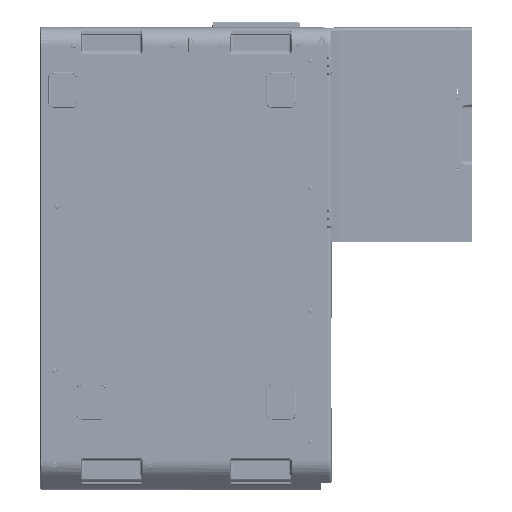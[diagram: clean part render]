
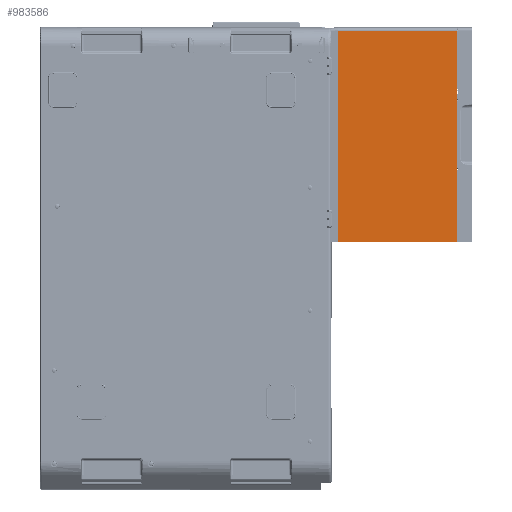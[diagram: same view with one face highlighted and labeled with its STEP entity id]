
A CAD part, front view. The second image highlights one B-rep face of the part: STEP entity #983586.
In plain terms, the highlighted planar face has unit normal (0, -1, 0).
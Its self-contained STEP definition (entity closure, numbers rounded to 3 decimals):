
#983420=DIRECTION('',(-1.,0.,0.));
#983421=VECTOR('',#983420,160.);
#983422=CARTESIAN_POINT('',(325.5,-269.4,185.156));
#983423=LINE('',#983422,#983421);
#983424=DIRECTION('',(0.,0.,1.));
#983425=VECTOR('',#983424,283.128);
#983426=CARTESIAN_POINT('',(165.5,-269.4,-97.972));
#983427=LINE('',#983426,#983425);
#983428=DIRECTION('',(0.,0.,-1.));
#983429=VECTOR('',#983428,283.128);
#983430=CARTESIAN_POINT('',(325.5,-269.4,185.156));
#983431=LINE('',#983430,#983429);
#983437=DIRECTION('',(1.,0.,0.));
#983438=VECTOR('',#983437,160.);
#983439=CARTESIAN_POINT('',(165.5,-269.4,-97.972));
#983440=LINE('',#983439,#983438);
#983524=CARTESIAN_POINT('',(165.5,-269.4,-97.972));
#983525=CARTESIAN_POINT('',(165.5,-269.4,185.156));
#983526=VERTEX_POINT('',#983524);
#983527=VERTEX_POINT('',#983525);
#983528=CARTESIAN_POINT('',(325.5,-269.4,185.156));
#983529=CARTESIAN_POINT('',(325.5,-269.4,-97.972));
#983530=VERTEX_POINT('',#983528);
#983531=VERTEX_POINT('',#983529);
#983572=CARTESIAN_POINT('',(165.5,-269.4,185.156));
#983573=DIRECTION('',(0.,-1.,0.));
#983574=DIRECTION('',(0.,0.,-1.));
#983575=AXIS2_PLACEMENT_3D('',#983572,#983573,#983574);
#983576=PLANE('',#983575);
#983578=ORIENTED_EDGE('',*,*,#983577,.T.);
#983579=ORIENTED_EDGE('',*,*,#983567,.F.);
#983581=ORIENTED_EDGE('',*,*,#983580,.T.);
#983583=ORIENTED_EDGE('',*,*,#983582,.F.);
#983584=EDGE_LOOP('',(#983578,#983579,#983581,#983583));
#983585=FACE_OUTER_BOUND('',#983584,.F.);
#983567=EDGE_CURVE('',#983530,#983527,#983423,.T.);
#983577=EDGE_CURVE('',#983526,#983527,#983427,.T.);
#983580=EDGE_CURVE('',#983530,#983531,#983431,.T.);
#983582=EDGE_CURVE('',#983526,#983531,#983440,.T.);
#983586=ADVANCED_FACE('',(#983585),#983576,.T.);
